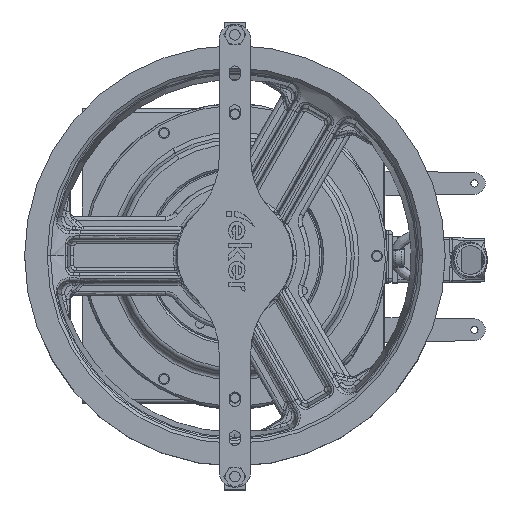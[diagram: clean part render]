
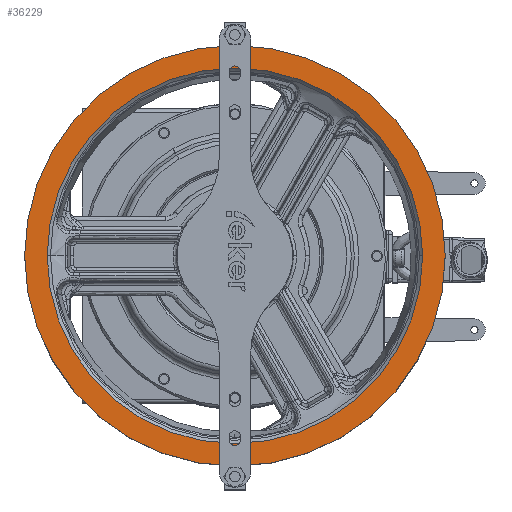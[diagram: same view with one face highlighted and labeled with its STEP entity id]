
A CAD part, top view. The second image highlights one B-rep face of the part: STEP entity #36229.
In plain terms, the highlighted planar face has unit normal (0, 0, 1).
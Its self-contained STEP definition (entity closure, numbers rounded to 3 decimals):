
#1910 = EDGE_LOOP ( 'NONE', ( #148062, #113353 ) ) ;
#5061 = DIRECTION ( 'NONE',  ( 0., 0., -1. ) ) ;
#7072 = CARTESIAN_POINT ( 'NONE',  ( -200.848, 5.707, 343.724 ) ) ;
#11132 = CARTESIAN_POINT ( 'NONE',  ( 156.173, 5.707, 343.724 ) ) ;
#14639 = EDGE_CURVE ( 'NONE', #92706, #41378, #91094, .T. ) ;
#15638 = FACE_BOUND ( 'NONE', #1910, .T. ) ;
#17736 = AXIS2_PLACEMENT_3D ( 'NONE', #87499, #113873, #138626 ) ;
#29235 = PLANE ( 'NONE',  #51933 ) ;
#36229 = ADVANCED_FACE ( 'NONE', ( #104121, #15638 ), #29235, .T. ) ;
#37078 = CARTESIAN_POINT ( 'NONE',  ( -22.337, 5.707, 343.724 ) ) ;
#39489 = DIRECTION ( 'NONE',  ( 0., 0., 1. ) ) ;
#41029 = AXIS2_PLACEMENT_3D ( 'NONE', #37078, #63429, #62595 ) ;
#41378 = VERTEX_POINT ( 'NONE', #11132 ) ;
#49049 = DIRECTION ( 'NONE',  ( 0., 0., 1. ) ) ;
#51933 = AXIS2_PLACEMENT_3D ( 'NONE', #131410, #39489, #81163 ) ;
#52609 = EDGE_CURVE ( 'NONE', #119294, #94671, #114401, .T. ) ;
#57081 = EDGE_CURVE ( 'NONE', #41378, #92706, #145432, .T. ) ;
#59263 = CARTESIAN_POINT ( 'NONE',  ( -222.337, 5.707, 343.724 ) ) ;
#62595 = DIRECTION ( 'NONE',  ( 1., 0., 0. ) ) ;
#63429 = DIRECTION ( 'NONE',  ( 0., 0., 1. ) ) ;
#64503 = AXIS2_PLACEMENT_3D ( 'NONE', #98413, #49049, #112048 ) ;
#68896 = DIRECTION ( 'NONE',  ( 1., 0., 0. ) ) ;
#69008 = CARTESIAN_POINT ( 'NONE',  ( 177.663, 5.707, 343.724 ) ) ;
#71107 = ORIENTED_EDGE ( 'NONE', *, *, #151501, .T. ) ;
#72042 = AXIS2_PLACEMENT_3D ( 'NONE', #148082, #5061, #68896 ) ;
#81163 = DIRECTION ( 'NONE',  ( 1., 0., 0. ) ) ;
#83750 = ORIENTED_EDGE ( 'NONE', *, *, #52609, .T. ) ;
#87499 = CARTESIAN_POINT ( 'NONE',  ( -22.337, 5.707, 343.724 ) ) ;
#91094 = CIRCLE ( 'NONE', #17736, 178.511 ) ;
#92706 = VERTEX_POINT ( 'NONE', #7072 ) ;
#94671 = VERTEX_POINT ( 'NONE', #59263 ) ;
#98413 = CARTESIAN_POINT ( 'NONE',  ( -22.337, 5.707, 343.724 ) ) ;
#104121 = FACE_OUTER_BOUND ( 'NONE', #153676, .T. ) ;
#112048 = DIRECTION ( 'NONE',  ( 1., 0., 0. ) ) ;
#113353 = ORIENTED_EDGE ( 'NONE', *, *, #57081, .T. ) ;
#113873 = DIRECTION ( 'NONE',  ( 0., 0., -1. ) ) ;
#114401 = CIRCLE ( 'NONE', #41029, 200. ) ;
#119294 = VERTEX_POINT ( 'NONE', #69008 ) ;
#131410 = CARTESIAN_POINT ( 'NONE',  ( -22.337, 5.707, 343.724 ) ) ;
#137967 = CIRCLE ( 'NONE', #64503, 200. ) ;
#138626 = DIRECTION ( 'NONE',  ( 1., 0., 0. ) ) ;
#145432 = CIRCLE ( 'NONE', #72042, 178.511 ) ;
#148062 = ORIENTED_EDGE ( 'NONE', *, *, #14639, .T. ) ;
#148082 = CARTESIAN_POINT ( 'NONE',  ( -22.337, 5.707, 343.724 ) ) ;
#151501 = EDGE_CURVE ( 'NONE', #94671, #119294, #137967, .T. ) ;
#153676 = EDGE_LOOP ( 'NONE', ( #71107, #83750 ) ) ;
